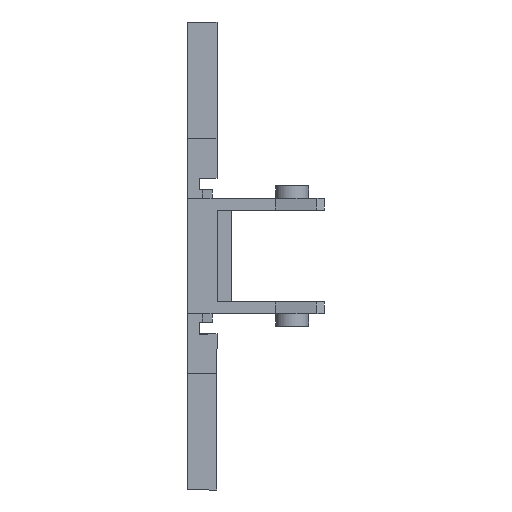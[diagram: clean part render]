
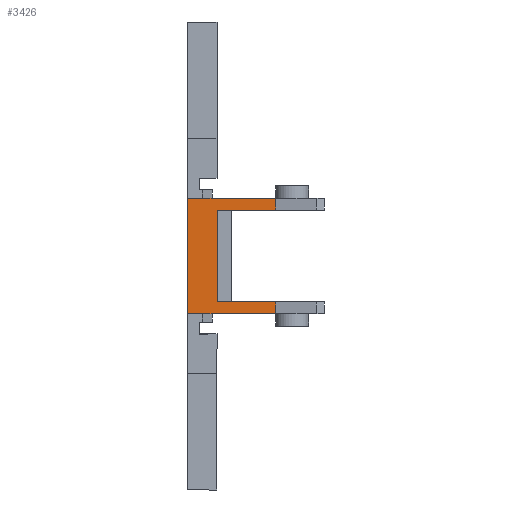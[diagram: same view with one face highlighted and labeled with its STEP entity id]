
A CAD part, front view. The second image highlights one B-rep face of the part: STEP entity #3426.
In plain terms, the highlighted planar face has unit normal (0, -1, 0).
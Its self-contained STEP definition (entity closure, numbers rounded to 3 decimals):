
#86 = ORIENTED_EDGE ( 'NONE', *, *, #1709, .F. ) ;
#87 = ORIENTED_EDGE ( 'NONE', *, *, #2360, .T. ) ;
#88 = ORIENTED_EDGE ( 'NONE', *, *, #2597, .F. ) ;
#89 = ORIENTED_EDGE ( 'NONE', *, *, #2490, .T. ) ;
#90 = ORIENTED_EDGE ( 'NONE', *, *, #2402, .T. ) ;
#91 = ORIENTED_EDGE ( 'NONE', *, *, #2351, .T. ) ;
#92 = ORIENTED_EDGE ( 'NONE', *, *, #2483, .F. ) ;
#93 = ORIENTED_EDGE ( 'NONE', *, *, #2561, .F. ) ;
#530 = LINE ( 'NONE', #2932, #547 ) ;
#547 = VECTOR ( 'NONE', #2939, 1000. ) ;
#557 = LINE ( 'NONE', #2953, #562 ) ;
#562 = VECTOR ( 'NONE', #2956, 1000. ) ;
#642 = LINE ( 'NONE', #3044, #643 ) ;
#643 = VECTOR ( 'NONE', #3045, 1000. ) ;
#785 = LINE ( 'NONE', #3205, #805 ) ;
#791 = LINE ( 'NONE', #3218, #792 ) ;
#792 = VECTOR ( 'NONE', #3219, 1000. ) ;
#805 = VECTOR ( 'NONE', #3234, 1000. ) ;
#915 = VECTOR ( 'NONE', #3386, 1000. ) ;
#923 = LINE ( 'NONE', #3385, #915 ) ;
#984 = LINE ( 'NONE', #2034, #1004 ) ;
#1004 = VECTOR ( 'NONE', #2043, 1000. ) ;
#1032 = FACE_OUTER_BOUND ( 'NONE', #1606, .T. ) ;
#1519 = LINE ( 'NONE', #2605, #1530 ) ;
#1530 = VECTOR ( 'NONE', #2806, 1000. ) ;
#1606 = EDGE_LOOP ( 'NONE', ( #86, #87, #88, #89, #90, #91, #92, #93 ) ) ;
#1709 = EDGE_CURVE ( 'NONE', #2645, #2646, #1519, .T. ) ;
#1824 = AXIS2_PLACEMENT_3D ( 'NONE', #2249, #2250, #2257 ) ;
#1917 = CARTESIAN_POINT ( 'NONE',  ( 9.023, -16.55, 5.9 ) ) ;
#1965 = CARTESIAN_POINT ( 'NONE',  ( 9.023, -16.55, 4.7 ) ) ;
#2008 = CARTESIAN_POINT ( 'NONE',  ( 3., -16.55, -4.7 ) ) ;
#2034 = CARTESIAN_POINT ( 'NONE',  ( 9.023, -16.55, 67.733 ) ) ;
#2043 = DIRECTION ( 'NONE',  ( 0., 0., -1. ) ) ;
#2072 = CARTESIAN_POINT ( 'NONE',  ( 9.023, -16.55, -5.9 ) ) ;
#2085 = CARTESIAN_POINT ( 'NONE',  ( 3., -16.55, 4.7 ) ) ;
#2092 = CARTESIAN_POINT ( 'NONE',  ( 9.023, -16.55, -4.7 ) ) ;
#2093 = CARTESIAN_POINT ( 'NONE',  ( 0., -16.55, -5.9 ) ) ;
#2225 = CARTESIAN_POINT ( 'NONE',  ( 0., -16.55, 5.9 ) ) ;
#2249 = CARTESIAN_POINT ( 'NONE',  ( 14., -16.55, -5.9 ) ) ;
#2250 = DIRECTION ( 'NONE',  ( 0., -1., 0. ) ) ;
#2257 = DIRECTION ( 'NONE',  ( -1., 0., 0. ) ) ;
#2259 = PLANE ( 'NONE',  #1824 ) ;
#2351 = EDGE_CURVE ( 'NONE', #2650, #2651, #530, .T. ) ;
#2360 = EDGE_CURVE ( 'NONE', #2645, #2647, #557, .T. ) ;
#2402 = EDGE_CURVE ( 'NONE', #2649, #2650, #642, .T. ) ;
#2483 = EDGE_CURVE ( 'NONE', #2652, #2651, #791, .T. ) ;
#2490 = EDGE_CURVE ( 'NONE', #2648, #2649, #785, .T. ) ;
#2561 = EDGE_CURVE ( 'NONE', #2646, #2652, #923, .T. ) ;
#2597 = EDGE_CURVE ( 'NONE', #2648, #2647, #984, .T. ) ;
#2605 = CARTESIAN_POINT ( 'NONE',  ( 3., -16.55, -5.9 ) ) ;
#2645 = VERTEX_POINT ( 'NONE', #2085 ) ;
#2646 = VERTEX_POINT ( 'NONE', #2008 ) ;
#2647 = VERTEX_POINT ( 'NONE', #1965 ) ;
#2648 = VERTEX_POINT ( 'NONE', #1917 ) ;
#2649 = VERTEX_POINT ( 'NONE', #2225 ) ;
#2650 = VERTEX_POINT ( 'NONE', #2093 ) ;
#2651 = VERTEX_POINT ( 'NONE', #2072 ) ;
#2652 = VERTEX_POINT ( 'NONE', #2092 ) ;
#2806 = DIRECTION ( 'NONE',  ( 0., 0., -1. ) ) ;
#2932 = CARTESIAN_POINT ( 'NONE',  ( 1.5, -16.55, -5.9 ) ) ;
#2939 = DIRECTION ( 'NONE',  ( 1., 0., 0. ) ) ;
#2953 = CARTESIAN_POINT ( 'NONE',  ( 14., -16.55, 4.7 ) ) ;
#2956 = DIRECTION ( 'NONE',  ( 1., 0., 0. ) ) ;
#3044 = CARTESIAN_POINT ( 'NONE',  ( 0., -16.55, 15.37 ) ) ;
#3045 = DIRECTION ( 'NONE',  ( 0., 0., -1. ) ) ;
#3205 = CARTESIAN_POINT ( 'NONE',  ( 14., -16.55, 5.9 ) ) ;
#3218 = CARTESIAN_POINT ( 'NONE',  ( 9.023, -16.55, 67.733 ) ) ;
#3219 = DIRECTION ( 'NONE',  ( 0., 0., -1. ) ) ;
#3234 = DIRECTION ( 'NONE',  ( -1., 0., 0. ) ) ;
#3385 = CARTESIAN_POINT ( 'NONE',  ( 14., -16.55, -4.7 ) ) ;
#3386 = DIRECTION ( 'NONE',  ( 1., 0., 0. ) ) ;
#3426 = ADVANCED_FACE ( 'NONE', ( #1032 ), #2259, .T. ) ;
